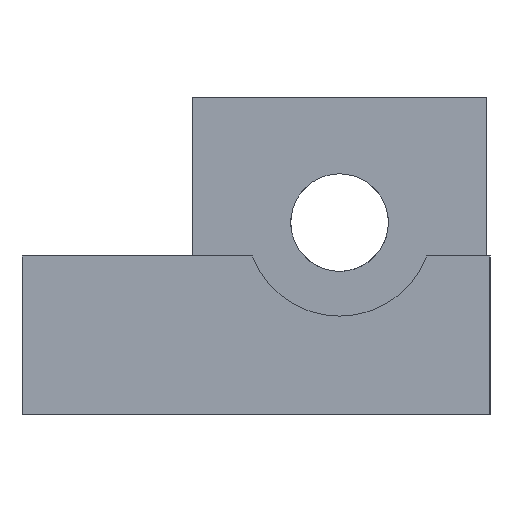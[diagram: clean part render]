
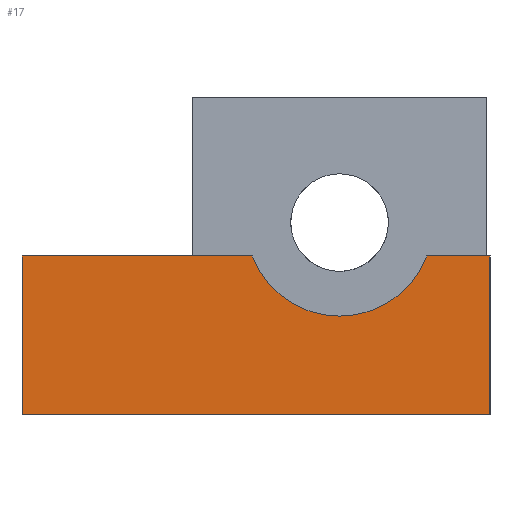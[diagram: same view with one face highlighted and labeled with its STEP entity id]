
A CAD part, left-side view. The second image highlights one B-rep face of the part: STEP entity #17.
In plain terms, the highlighted planar face has unit normal (-1, 0, 0).
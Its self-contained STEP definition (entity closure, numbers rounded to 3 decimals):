
#17 = ADVANCED_FACE('',(#18),#32,.T.);
#18 = FACE_BOUND('',#19,.T.);
#19 = EDGE_LOOP('',(#20,#55,#83,#111,#139,#168,#192));
#20 = ORIENTED_EDGE('',*,*,#21,.F.);
#21 = EDGE_CURVE('',#22,#24,#26,.T.);
#22 = VERTEX_POINT('',#23);
#23 = CARTESIAN_POINT('',(-15.,9.5,-4.75));
#24 = VERTEX_POINT('',#25);
#25 = CARTESIAN_POINT('',(-15.,9.5,0.));
#26 = SURFACE_CURVE('',#27,(#31,#43),.PCURVE_S1.);
#27 = LINE('',#28,#29);
#28 = CARTESIAN_POINT('',(-15.,9.5,-4.75));
#29 = VECTOR('',#30,1.);
#30 = DIRECTION('',(0.,0.,1.));
#31 = PCURVE('',#32,#37);
#32 = PLANE('',#33);
#33 = AXIS2_PLACEMENT_3D('',#34,#35,#36);
#34 = CARTESIAN_POINT('',(-15.,9.5,-4.75));
#35 = DIRECTION('',(-1.,0.,0.));
#36 = DIRECTION('',(0.,0.,1.));
#37 = DEFINITIONAL_REPRESENTATION('',(#38),#42);
#38 = LINE('',#39,#40);
#39 = CARTESIAN_POINT('',(0.,0.));
#40 = VECTOR('',#41,1.);
#41 = DIRECTION('',(1.,0.));
#42 = ( GEOMETRIC_REPRESENTATION_CONTEXT(2) 
PARAMETRIC_REPRESENTATION_CONTEXT() REPRESENTATION_CONTEXT('2D SPACE',''
  ) );
#43 = PCURVE('',#44,#49);
#44 = PLANE('',#45);
#45 = AXIS2_PLACEMENT_3D('',#46,#47,#48);
#46 = CARTESIAN_POINT('',(-5.,9.5,4.75));
#47 = DIRECTION('',(0.,-1.,0.));
#48 = DIRECTION('',(0.,0.,-1.));
#49 = DEFINITIONAL_REPRESENTATION('',(#50),#54);
#50 = LINE('',#51,#52);
#51 = CARTESIAN_POINT('',(9.5,-10.));
#52 = VECTOR('',#53,1.);
#53 = DIRECTION('',(-1.,0.));
#54 = ( GEOMETRIC_REPRESENTATION_CONTEXT(2) 
PARAMETRIC_REPRESENTATION_CONTEXT() REPRESENTATION_CONTEXT('2D SPACE',''
  ) );
#55 = ORIENTED_EDGE('',*,*,#56,.T.);
#56 = EDGE_CURVE('',#22,#57,#59,.T.);
#57 = VERTEX_POINT('',#58);
#58 = CARTESIAN_POINT('',(-15.,-4.5,-4.75));
#59 = SURFACE_CURVE('',#60,(#64,#71),.PCURVE_S1.);
#60 = LINE('',#61,#62);
#61 = CARTESIAN_POINT('',(-15.,9.5,-4.75));
#62 = VECTOR('',#63,1.);
#63 = DIRECTION('',(0.,-1.,0.));
#64 = PCURVE('',#32,#65);
#65 = DEFINITIONAL_REPRESENTATION('',(#66),#70);
#66 = LINE('',#67,#68);
#67 = CARTESIAN_POINT('',(0.,0.));
#68 = VECTOR('',#69,1.);
#69 = DIRECTION('',(0.,-1.));
#70 = ( GEOMETRIC_REPRESENTATION_CONTEXT(2) 
PARAMETRIC_REPRESENTATION_CONTEXT() REPRESENTATION_CONTEXT('2D SPACE',''
  ) );
#71 = PCURVE('',#72,#77);
#72 = PLANE('',#73);
#73 = AXIS2_PLACEMENT_3D('',#74,#75,#76);
#74 = CARTESIAN_POINT('',(5.,9.5,-4.75));
#75 = DIRECTION('',(0.,0.,1.));
#76 = DIRECTION('',(0.,-1.,0.));
#77 = DEFINITIONAL_REPRESENTATION('',(#78),#82);
#78 = LINE('',#79,#80);
#79 = CARTESIAN_POINT('',(0.,-20.));
#80 = VECTOR('',#81,1.);
#81 = DIRECTION('',(1.,0.));
#82 = ( GEOMETRIC_REPRESENTATION_CONTEXT(2) 
PARAMETRIC_REPRESENTATION_CONTEXT() REPRESENTATION_CONTEXT('2D SPACE',''
  ) );
#83 = ORIENTED_EDGE('',*,*,#84,.F.);
#84 = EDGE_CURVE('',#85,#57,#87,.T.);
#85 = VERTEX_POINT('',#86);
#86 = CARTESIAN_POINT('',(-15.,-4.5,0.));
#87 = SURFACE_CURVE('',#88,(#92,#99),.PCURVE_S1.);
#88 = LINE('',#89,#90);
#89 = CARTESIAN_POINT('',(-15.,-4.5,0.));
#90 = VECTOR('',#91,1.);
#91 = DIRECTION('',(-0.,0.,-1.));
#92 = PCURVE('',#32,#93);
#93 = DEFINITIONAL_REPRESENTATION('',(#94),#98);
#94 = LINE('',#95,#96);
#95 = CARTESIAN_POINT('',(4.75,-14.));
#96 = VECTOR('',#97,1.);
#97 = DIRECTION('',(-1.,0.));
#98 = ( GEOMETRIC_REPRESENTATION_CONTEXT(2) 
PARAMETRIC_REPRESENTATION_CONTEXT() REPRESENTATION_CONTEXT('2D SPACE',''
  ) );
#99 = PCURVE('',#100,#105);
#100 = PLANE('',#101);
#101 = AXIS2_PLACEMENT_3D('',#102,#103,#104);
#102 = CARTESIAN_POINT('',(-15.,-4.5,0.));
#103 = DIRECTION('',(0.,-1.,0.));
#104 = DIRECTION('',(1.,0.,0.));
#105 = DEFINITIONAL_REPRESENTATION('',(#106),#110);
#106 = LINE('',#107,#108);
#107 = CARTESIAN_POINT('',(0.,0.));
#108 = VECTOR('',#109,1.);
#109 = DIRECTION('',(-0.,-1.));
#110 = ( GEOMETRIC_REPRESENTATION_CONTEXT(2) 
PARAMETRIC_REPRESENTATION_CONTEXT() REPRESENTATION_CONTEXT('2D SPACE',''
  ) );
#111 = ORIENTED_EDGE('',*,*,#112,.F.);
#112 = EDGE_CURVE('',#113,#85,#115,.T.);
#113 = VERTEX_POINT('',#114);
#114 = CARTESIAN_POINT('',(-15.,-2.615,
    0.));
#115 = SURFACE_CURVE('',#116,(#120,#127),.PCURVE_S1.);
#116 = LINE('',#117,#118);
#117 = CARTESIAN_POINT('',(-15.,9.5,0.));
#118 = VECTOR('',#119,1.);
#119 = DIRECTION('',(0.,-1.,0.));
#120 = PCURVE('',#32,#121);
#121 = DEFINITIONAL_REPRESENTATION('',(#122),#126);
#122 = LINE('',#123,#124);
#123 = CARTESIAN_POINT('',(4.75,0.));
#124 = VECTOR('',#125,1.);
#125 = DIRECTION('',(0.,-1.));
#126 = ( GEOMETRIC_REPRESENTATION_CONTEXT(2) 
PARAMETRIC_REPRESENTATION_CONTEXT() REPRESENTATION_CONTEXT('2D SPACE',''
  ) );
#127 = PCURVE('',#128,#133);
#128 = PLANE('',#129);
#129 = AXIS2_PLACEMENT_3D('',#130,#131,#132);
#130 = CARTESIAN_POINT('',(-15.,9.5,0.));
#131 = DIRECTION('',(0.,0.,1.));
#132 = DIRECTION('',(1.,0.,0.));
#133 = DEFINITIONAL_REPRESENTATION('',(#134),#138);
#134 = LINE('',#135,#136);
#135 = CARTESIAN_POINT('',(0.,0.));
#136 = VECTOR('',#137,1.);
#137 = DIRECTION('',(0.,-1.));
#138 = ( GEOMETRIC_REPRESENTATION_CONTEXT(2) 
PARAMETRIC_REPRESENTATION_CONTEXT() REPRESENTATION_CONTEXT('2D SPACE',''
  ) );
#139 = ORIENTED_EDGE('',*,*,#140,.F.);
#140 = EDGE_CURVE('',#141,#113,#143,.T.);
#141 = VERTEX_POINT('',#142);
#142 = CARTESIAN_POINT('',(-15.,0.,-1.8));
#143 = SURFACE_CURVE('',#144,(#149,#156),.PCURVE_S1.);
#144 = CIRCLE('',#145,2.8);
#145 = AXIS2_PLACEMENT_3D('',#146,#147,#148);
#146 = CARTESIAN_POINT('',(-15.,0.,1.));
#147 = DIRECTION('',(-1.,0.,0.));
#148 = DIRECTION('',(0.,0.,-1.));
#149 = PCURVE('',#32,#150);
#150 = DEFINITIONAL_REPRESENTATION('',(#151),#155);
#151 = CIRCLE('',#152,2.8);
#152 = AXIS2_PLACEMENT_2D('',#153,#154);
#153 = CARTESIAN_POINT('',(5.75,-9.5));
#154 = DIRECTION('',(-1.,0.));
#155 = ( GEOMETRIC_REPRESENTATION_CONTEXT(2) 
PARAMETRIC_REPRESENTATION_CONTEXT() REPRESENTATION_CONTEXT('2D SPACE',''
  ) );
#156 = PCURVE('',#157,#162);
#157 = CYLINDRICAL_SURFACE('',#158,2.8);
#158 = AXIS2_PLACEMENT_3D('',#159,#160,#161);
#159 = CARTESIAN_POINT('',(-15.,0.,1.));
#160 = DIRECTION('',(-1.,0.,0.));
#161 = DIRECTION('',(0.,0.,-1.));
#162 = DEFINITIONAL_REPRESENTATION('',(#163),#167);
#163 = LINE('',#164,#165);
#164 = CARTESIAN_POINT('',(6.283,0.));
#165 = VECTOR('',#166,1.);
#166 = DIRECTION('',(1.,0.));
#167 = ( GEOMETRIC_REPRESENTATION_CONTEXT(2) 
PARAMETRIC_REPRESENTATION_CONTEXT() REPRESENTATION_CONTEXT('2D SPACE',''
  ) );
#168 = ORIENTED_EDGE('',*,*,#169,.F.);
#169 = EDGE_CURVE('',#170,#141,#172,.T.);
#170 = VERTEX_POINT('',#171);
#171 = CARTESIAN_POINT('',(-15.,2.615,
    0.));
#172 = SURFACE_CURVE('',#173,(#178,#185),.PCURVE_S1.);
#173 = CIRCLE('',#174,2.8);
#174 = AXIS2_PLACEMENT_3D('',#175,#176,#177);
#175 = CARTESIAN_POINT('',(-15.,0.,1.));
#176 = DIRECTION('',(-1.,0.,0.));
#177 = DIRECTION('',(0.,0.,-1.));
#178 = PCURVE('',#32,#179);
#179 = DEFINITIONAL_REPRESENTATION('',(#180),#184);
#180 = CIRCLE('',#181,2.8);
#181 = AXIS2_PLACEMENT_2D('',#182,#183);
#182 = CARTESIAN_POINT('',(5.75,-9.5));
#183 = DIRECTION('',(-1.,0.));
#184 = ( GEOMETRIC_REPRESENTATION_CONTEXT(2) 
PARAMETRIC_REPRESENTATION_CONTEXT() REPRESENTATION_CONTEXT('2D SPACE',''
  ) );
#185 = PCURVE('',#157,#186);
#186 = DEFINITIONAL_REPRESENTATION('',(#187),#191);
#187 = LINE('',#188,#189);
#188 = CARTESIAN_POINT('',(0.,0.));
#189 = VECTOR('',#190,1.);
#190 = DIRECTION('',(1.,0.));
#191 = ( GEOMETRIC_REPRESENTATION_CONTEXT(2) 
PARAMETRIC_REPRESENTATION_CONTEXT() REPRESENTATION_CONTEXT('2D SPACE',''
  ) );
#192 = ORIENTED_EDGE('',*,*,#193,.F.);
#193 = EDGE_CURVE('',#24,#170,#194,.T.);
#194 = SURFACE_CURVE('',#195,(#199,#206),.PCURVE_S1.);
#195 = LINE('',#196,#197);
#196 = CARTESIAN_POINT('',(-15.,9.5,0.));
#197 = VECTOR('',#198,1.);
#198 = DIRECTION('',(0.,-1.,0.));
#199 = PCURVE('',#32,#200);
#200 = DEFINITIONAL_REPRESENTATION('',(#201),#205);
#201 = LINE('',#202,#203);
#202 = CARTESIAN_POINT('',(4.75,0.));
#203 = VECTOR('',#204,1.);
#204 = DIRECTION('',(0.,-1.));
#205 = ( GEOMETRIC_REPRESENTATION_CONTEXT(2) 
PARAMETRIC_REPRESENTATION_CONTEXT() REPRESENTATION_CONTEXT('2D SPACE',''
  ) );
#206 = PCURVE('',#207,#212);
#207 = PLANE('',#208);
#208 = AXIS2_PLACEMENT_3D('',#209,#210,#211);
#209 = CARTESIAN_POINT('',(-15.,9.5,0.));
#210 = DIRECTION('',(0.,0.,1.));
#211 = DIRECTION('',(1.,0.,0.));
#212 = DEFINITIONAL_REPRESENTATION('',(#213),#217);
#213 = LINE('',#214,#215);
#214 = CARTESIAN_POINT('',(0.,0.));
#215 = VECTOR('',#216,1.);
#216 = DIRECTION('',(0.,-1.));
#217 = ( GEOMETRIC_REPRESENTATION_CONTEXT(2) 
PARAMETRIC_REPRESENTATION_CONTEXT() REPRESENTATION_CONTEXT('2D SPACE',''
  ) );
